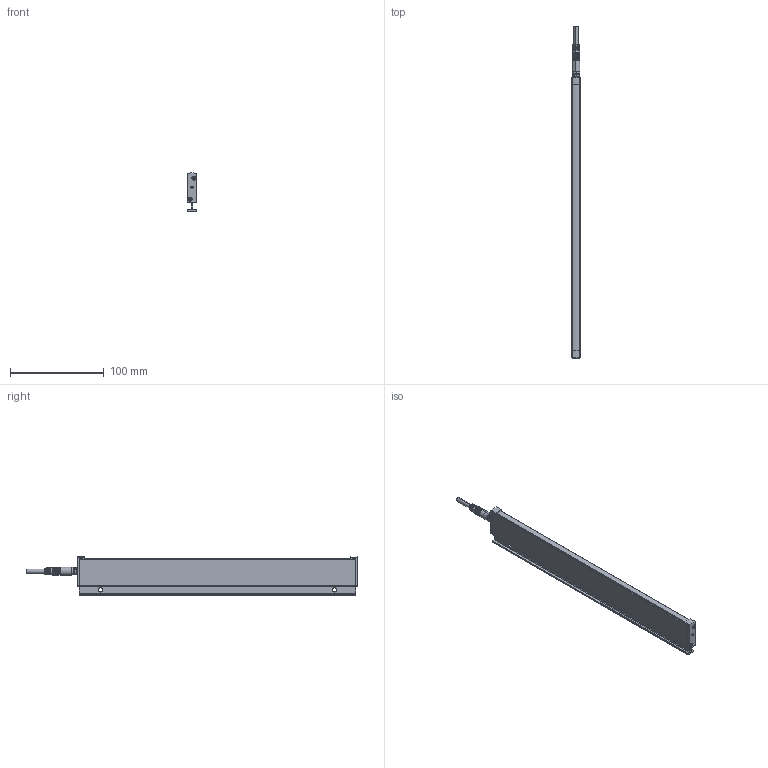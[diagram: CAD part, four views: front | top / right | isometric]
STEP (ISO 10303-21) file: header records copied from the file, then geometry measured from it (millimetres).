
FILE_DESCRIPTION (( 'STEP AP214' ), '1' );
FILE_NAME ('ILG-L-K2-0300mm.STEP', '2017-07-11T07:27:54', ( '' ), ( '' ), 'SwSTEP 2.0', 'SolidWorks 2016', '' );
FILE_SCHEMA (( 'AUTOMOTIVE_DESIGN' ));
Length unit declared in the file: millimetre
Products named in the file (1): ILG-L-K2-0300mm
Bounding box: 9 x 354.5 x 40.71 mm (x, y, z)
Surface area: 63676.9 mm2 (no closed solid volume)
Topology: 0 solids, 13 shells, 677 faces, 1774 edges, 1127 vertices
Faces by surface type: cylinder 284, plane 255, cone 90, bspline 32, torus 16
Entity records: 30436 total; most frequent: CARTESIAN_POINT 6465, ORIENTED_EDGE 3501, DIRECTION 3378, EDGE_CURVE 1758, AXIS2_PLACEMENT_3D 1289, VERTEX_POINT 1127, VECTOR 800, LINE 800
